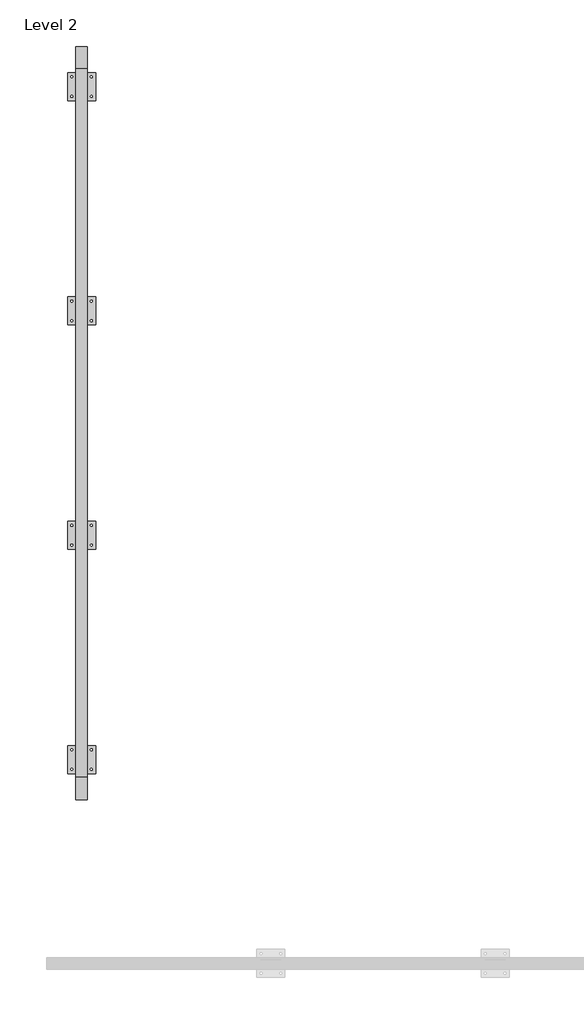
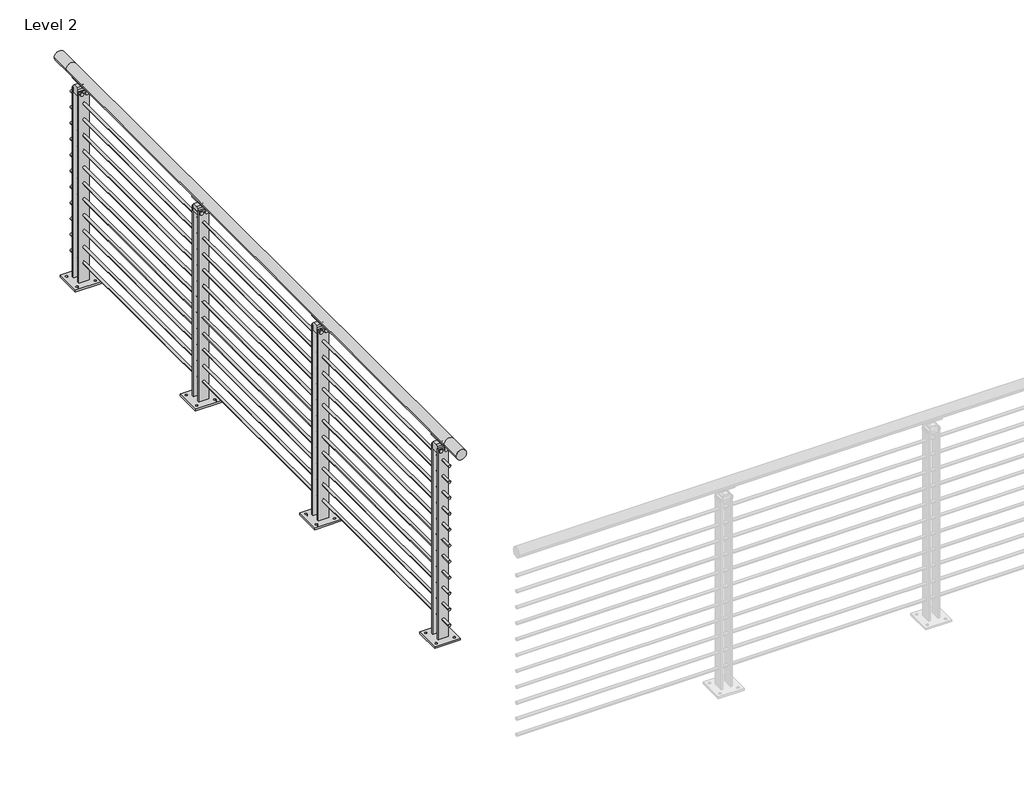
# One storey, part 9 of 31: 1 railing.
"""IFC4 building model written with IfcOpenShell, lengths in millimetres."""

from ifc_helpers import new_model, si_unit, point, frame, frame_2d, origin, place, context, project, spatial, polyline, circle_curve, trimmed, segment, composite_curve, outline, extrude, element, save
from ifc_brep_helpers import plane_surface, cylinder_surface, revolved_surface, advanced_brep

model = new_model("IFC4")

# Units and contexts
model_context = context("Model", 3, world=origin())
ifc_project = project(units=[si_unit("LENGTHUNIT", "METRE", prefix="MILLI")], contexts=[model_context])

# Site, building, storey
site = spatial("IfcSite", under=ifc_project)
building = spatial("IfcBuilding", under=site)
storey = spatial("IfcBuildingStorey", under=building, Name="Level 2", Elevation=3048.0)

# Railing
placement = place(None, origin())
element("IfcRailing", 1, ObjectType="VIVA-BLADE-Multiline-Floor Mount-Straight", at=placement, inside=storey, context=model_context, shape_type="SolidModel", body=[
    advanced_brep(
    [(15627.1572927, -69193.3040223, 4102.1), (15576.3572927, -69193.3040223, 4102.1), (15627.1572927, -69091.7040223, 4102.1), (15576.3572927, -69091.7040223, 4102.1), (15627.1572927, -65884.2426165, 4102.1), (15576.3572927, -65884.2426165, 4102.1), (15627.1572927, -65782.6426165, 4102.1), (15576.3572927, -65782.6426165, 4102.1)],
    [
        (0, 1, circle_curve(frame((15601.7572927, -69193.3040223, 4102.1), z_axis=(0.0, -1.0, 0.0), x_axis=(-1.0, 0.0, 0.0)), 25.4)),
        (1, 0, circle_curve(frame((15601.7572927, -69193.3040223, 4102.1), z_axis=(0.0, -1.0, 0.0), x_axis=(-1.0, 0.0, 0.0)), 25.4)),
        (0, 2),
        (2, 3, circle_curve(frame((15601.7572927, -69091.7040223, 4102.1), z_axis=(0.0, -1.0, 0.0), x_axis=(-1.0, 0.0, 0.0)), 25.4)),
        (3, 1),
        (3, 2, circle_curve(frame((15601.7572927, -69091.7040223, 4102.1), z_axis=(0.0, -1.0, 0.0), x_axis=(-1.0, 0.0, 0.0)), 25.4)),
        (2, 4),
        (4, 5, circle_curve(frame((15601.7572927, -65884.2426165, 4102.1), z_axis=(0.0, -1.0, 0.0), x_axis=(-1.0, 0.0, 0.0)), 25.4)),
        (5, 3),
        (5, 4, circle_curve(frame((15601.7572927, -65884.2426165, 4102.1), z_axis=(0.0, -1.0, 0.0), x_axis=(-1.0, 0.0, 0.0)), 25.4)),
        (6, 7, circle_curve(frame((15601.7572927, -65782.6426165, 4102.1), z_axis=(0.0, 1.0, 0.0), x_axis=(-1.0, 0.0, 0.0)), 25.4)),
        (7, 6, circle_curve(frame((15601.7572927, -65782.6426165, 4102.1), z_axis=(0.0, 1.0, 0.0), x_axis=(-1.0, 0.0, 0.0)), 25.4)),
        (4, 6),
        (7, 5),
    ],
    [
        plane_surface(frame((15601.7572927, -69193.3040223, 4127.5), z_axis=(0.0, -1.0, 0.0), x_axis=(0.0, 0.0, 1.0))),
        cylinder_surface(frame((15601.7572927, -69193.3040223, 4102.1), z_axis=(0.0, -1.0, 0.0), x_axis=(-1.0, 0.0, 0.0)), 25.4),
        cylinder_surface(frame((15601.7572927, -69091.7040223, 4102.1), z_axis=(0.0, -1.0, 0.0), x_axis=(-1.0, 0.0, 0.0)), 25.4),
        plane_surface(frame((15601.7572927, -65782.6426165, 4127.5), z_axis=(0.0, 1.0, 0.0), x_axis=(0.0, 0.0, 1.0))),
        cylinder_surface(frame((15601.7572927, -65884.2426165, 4102.1), z_axis=(0.0, -1.0, 0.0), x_axis=(-1.0, 0.0, 0.0)), 25.4),
    ],
    [
        (0, [[1, 2]]),
        (1, [[-1, 3, 4, 5]]),
        (1, [[-2, -5, 6, -3]]),
        (2, [[-4, 7, 8, 9]]),
        (2, [[-6, -9, 10, -7]]),
        (3, [[11, 12]]),
        (4, [[-8, 13, -12, 14]]),
        (4, [[-10, -14, -11, -13]]),
    ],
),
    extrude(outline(composite_curve([segment(trimmed(circle_curve(frame_2d((3981.45, 15601.7572927)), 6.35), [point((3981.45, 15608.1072927))], [point((3981.45, 15595.4072927))], False, "CARTESIAN"), True, "CONTINUOUS"), segment(trimmed(circle_curve(frame_2d((3981.45, 15601.7572927)), 6.35), [point((3981.45, 15595.4072927))], [point((3981.45, 15608.1072927))], False, "CARTESIAN"), True, "CONTINUOUS")], self_intersect=False)), frame((0.0, -69091.7040223, 0.0), z_axis=(0.0, 1.0, 0.0), x_axis=(0.0, 0.0, 1.0)), (0.0, 0.0, 1.0), 3207.4614057),
    extrude(outline(composite_curve([segment(trimmed(circle_curve(frame_2d((3898.9, 15601.7572927)), 6.35), [point((3898.9, 15608.1072927))], [point((3898.9, 15595.4072927))], False, "CARTESIAN"), True, "CONTINUOUS"), segment(trimmed(circle_curve(frame_2d((3898.9, 15601.7572927)), 6.35), [point((3898.9, 15595.4072927))], [point((3898.9, 15608.1072927))], False, "CARTESIAN"), True, "CONTINUOUS")], self_intersect=False)), frame((0.0, -69091.7040223, 0.0), z_axis=(0.0, 1.0, 0.0), x_axis=(0.0, 0.0, 1.0)), (0.0, 0.0, 1.0), 3207.4614057),
    extrude(outline(composite_curve([segment(trimmed(circle_curve(frame_2d((3816.35, 15601.7572927)), 6.35), [point((3816.35, 15608.1072927))], [point((3816.35, 15595.4072927))], False, "CARTESIAN"), True, "CONTINUOUS"), segment(trimmed(circle_curve(frame_2d((3816.35, 15601.7572927)), 6.35), [point((3816.35, 15595.4072927))], [point((3816.35, 15608.1072927))], False, "CARTESIAN"), True, "CONTINUOUS")], self_intersect=False)), frame((0.0, -69091.7040223, 0.0), z_axis=(0.0, 1.0, 0.0), x_axis=(0.0, 0.0, 1.0)), (0.0, 0.0, 1.0), 3207.4614057),
    extrude(outline(composite_curve([segment(trimmed(circle_curve(frame_2d((3733.8, 15601.7572927)), 6.35), [point((3733.8, 15608.1072927))], [point((3733.8, 15595.4072927))], False, "CARTESIAN"), True, "CONTINUOUS"), segment(trimmed(circle_curve(frame_2d((3733.8, 15601.7572927)), 6.35), [point((3733.8, 15595.4072927))], [point((3733.8, 15608.1072927))], False, "CARTESIAN"), True, "CONTINUOUS")], self_intersect=False)), frame((0.0, -69091.7040223, 0.0), z_axis=(0.0, 1.0, 0.0), x_axis=(0.0, 0.0, 1.0)), (0.0, 0.0, 1.0), 3207.4614057),
    extrude(outline(composite_curve([segment(trimmed(circle_curve(frame_2d((3651.25, 15601.7572927)), 6.35), [point((3651.25, 15608.1072927))], [point((3651.25, 15595.4072927))], False, "CARTESIAN"), True, "CONTINUOUS"), segment(trimmed(circle_curve(frame_2d((3651.25, 15601.7572927)), 6.35), [point((3651.25, 15595.4072927))], [point((3651.25, 15608.1072927))], False, "CARTESIAN"), True, "CONTINUOUS")], self_intersect=False)), frame((0.0, -69091.7040223, 0.0), z_axis=(0.0, 1.0, 0.0), x_axis=(0.0, 0.0, 1.0)), (0.0, 0.0, 1.0), 3207.4614057),
    extrude(outline(composite_curve([segment(trimmed(circle_curve(frame_2d((3568.7, 15601.7572927)), 6.35), [point((3568.7, 15608.1072927))], [point((3568.7, 15595.4072927))], False, "CARTESIAN"), True, "CONTINUOUS"), segment(trimmed(circle_curve(frame_2d((3568.7, 15601.7572927)), 6.35), [point((3568.7, 15595.4072927))], [point((3568.7, 15608.1072927))], False, "CARTESIAN"), True, "CONTINUOUS")], self_intersect=False)), frame((0.0, -69091.7040223, 0.0), z_axis=(0.0, 1.0, 0.0), x_axis=(0.0, 0.0, 1.0)), (0.0, 0.0, 1.0), 3207.4614057),
    extrude(outline(composite_curve([segment(trimmed(circle_curve(frame_2d((3486.15, 15601.7572927)), 6.35), [point((3486.15, 15608.1072927))], [point((3486.15, 15595.4072927))], False, "CARTESIAN"), True, "CONTINUOUS"), segment(trimmed(circle_curve(frame_2d((3486.15, 15601.7572927)), 6.35), [point((3486.15, 15595.4072927))], [point((3486.15, 15608.1072927))], False, "CARTESIAN"), True, "CONTINUOUS")], self_intersect=False)), frame((0.0, -69091.7040223, 0.0), z_axis=(0.0, 1.0, 0.0), x_axis=(0.0, 0.0, 1.0)), (0.0, 0.0, 1.0), 3207.4614057),
    extrude(outline(composite_curve([segment(trimmed(circle_curve(frame_2d((3403.6, 15601.7572927)), 6.35), [point((3403.6, 15608.1072927))], [point((3403.6, 15595.4072927))], False, "CARTESIAN"), True, "CONTINUOUS"), segment(trimmed(circle_curve(frame_2d((3403.6, 15601.7572927)), 6.35), [point((3403.6, 15595.4072927))], [point((3403.6, 15608.1072927))], False, "CARTESIAN"), True, "CONTINUOUS")], self_intersect=False)), frame((0.0, -69091.7040223, 0.0), z_axis=(0.0, 1.0, 0.0), x_axis=(0.0, 0.0, 1.0)), (0.0, 0.0, 1.0), 3207.4614057),
    extrude(outline(composite_curve([segment(trimmed(circle_curve(frame_2d((3321.05, 15601.7572927)), 6.35), [point((3321.05, 15608.1072927))], [point((3321.05, 15595.4072927))], False, "CARTESIAN"), True, "CONTINUOUS"), segment(trimmed(circle_curve(frame_2d((3321.05, 15601.7572927)), 6.35), [point((3321.05, 15595.4072927))], [point((3321.05, 15608.1072927))], False, "CARTESIAN"), True, "CONTINUOUS")], self_intersect=False)), frame((0.0, -69091.7040223, 0.0), z_axis=(0.0, 1.0, 0.0), x_axis=(0.0, 0.0, 1.0)), (0.0, 0.0, 1.0), 3207.4614057),
    extrude(outline(composite_curve([segment(trimmed(circle_curve(frame_2d((3238.5, 15601.7572927)), 6.35), [point((3238.5, 15608.1072927))], [point((3238.5, 15595.4072927))], False, "CARTESIAN"), True, "CONTINUOUS"), segment(trimmed(circle_curve(frame_2d((3238.5, 15601.7572927)), 6.35), [point((3238.5, 15595.4072927))], [point((3238.5, 15608.1072927))], False, "CARTESIAN"), True, "CONTINUOUS")], self_intersect=False)), frame((0.0, -69091.7040223, 0.0), z_axis=(0.0, 1.0, 0.0), x_axis=(0.0, 0.0, 1.0)), (0.0, 0.0, 1.0), 3207.4614057),
    extrude(outline(composite_curve([segment(trimmed(circle_curve(frame_2d((3155.95, 15601.7572927)), 6.35), [point((3155.95, 15608.1072927))], [point((3155.95, 15595.4072927))], False, "CARTESIAN"), True, "CONTINUOUS"), segment(trimmed(circle_curve(frame_2d((3155.95, 15601.7572927)), 6.35), [point((3155.95, 15595.4072927))], [point((3155.95, 15608.1072927))], False, "CARTESIAN"), True, "CONTINUOUS")], self_intersect=False)), frame((0.0, -69091.7040223, 0.0), z_axis=(0.0, 1.0, 0.0), x_axis=(0.0, 0.0, 1.0)), (0.0, 0.0, 1.0), 3207.4614057),
    advanced_brep(
    [(15614.5174163, -65918.7359194, 4080.0967655), (15618.3533137, -65918.7359194, 4075.707533), (15586.8364215, -65918.7359194, 4075.1267745), (15589.6453518, -65918.7359194, 4079.9535285), (15614.5174163, -66009.2107194, 4080.0967655), (15589.5583797, -66009.2107194, 4080.0018447), (15586.7226281, -66009.2107194, 4075.1893964), (15618.3533137, -66009.2107194, 4075.707533)],
    [
        (0, 1, circle_curve(frame((15616.064974, -65918.7359194, 4077.5784521), z_axis=(0.0, 1.0, 0.0), x_axis=(1.0, 0.0, 0.0)), 2.9558141)),
        (1, 2, circle_curve(frame((15602.0870765, -65918.7359194, 4102.9742164), z_axis=(0.0, 1.0, 0.0), x_axis=(1.0, 0.0, 0.0)), 31.75)),
        (2, 3, circle_curve(frame((15588.3137265, -65918.7359194, 4077.4993599), z_axis=(0.0, 1.0, 0.0), x_axis=(1.0, 0.0, 0.0)), 2.7949225)),
        (3, 0, circle_curve(frame((15601.9536134, -65918.7359194, 4102.2115898), z_axis=(0.0, -1.0, 0.0), x_axis=(1.0, 0.0, 0.0)), 25.4345159)),
        (4, 5, circle_curve(frame((15601.9536134, -66009.2107194, 4102.2115898), z_axis=(0.0, 1.0, 0.0), x_axis=(1.0, 0.0, 0.0)), 25.4345159)),
        (5, 6, circle_curve(frame((15588.3137265, -66009.2107194, 4077.4993599), z_axis=(0.0, -1.0, 0.0), x_axis=(1.0, 0.0, 0.0)), 2.7949225)),
        (6, 7, circle_curve(frame((15602.0870765, -66009.2107194, 4102.9742164), z_axis=(0.0, -1.0, 0.0), x_axis=(1.0, 0.0, 0.0)), 31.75)),
        (7, 4, circle_curve(frame((15616.064974, -66009.2107194, 4077.5784521), z_axis=(0.0, -1.0, 0.0), x_axis=(1.0, 0.0, 0.0)), 2.9558141)),
        (3, 5),
        (4, 0),
        (2, 6),
        (1, 7),
    ],
    [
        plane_surface(frame((15627.3881293, -65918.7359194, 4102.2115898), z_axis=(0.0, 1.0, 0.0), x_axis=(0.0, 0.0, -1.0))),
        plane_surface(frame((15627.3881293, -66009.2107194, 4102.2115898), z_axis=(0.0, -1.0, 0.0), x_axis=(0.0, 0.0, 1.0))),
        revolved_surface(polyline([(15627.388129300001, -66009.2107194, 4102.2115898), (15627.388129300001, -65918.7359194, 4102.2115898)]), (15601.9536134, -66009.2107194, 4102.2115898), (0.0, -1.0, 0.0)),
        cylinder_surface(frame((15588.3137265, -66009.2107194, 4077.4993599), z_axis=(0.0, 1.0, 0.0), x_axis=(1.0, 0.0, 0.0)), 2.7949225),
        cylinder_surface(frame((15602.0870765, -66009.2107194, 4102.9742164), z_axis=(0.0, 1.0, 0.0), x_axis=(1.0, 0.0, 0.0)), 31.75),
        cylinder_surface(frame((15616.064974, -66009.2107194, 4077.5784521), z_axis=(0.0, 1.0, 0.0), x_axis=(1.0, 0.0, 0.0)), 2.9558141),
    ],
    [
        (0, [[1, 2, 3, 4]]),
        (1, [[5, 6, 7, 8]]),
        (2, [[9, -5, 10, -4]]),
        (3, [[11, -6, -9, -3]]),
        (4, [[12, -7, -11, -2]]),
        (5, [[-10, -8, -12, -1]]),
    ],
),
    extrude(outline(composite_curve([segment(polyline([(-65951.2733194, 4062.4125), (-65976.6733194, 4062.4125)]), True, "CONTINUOUS"), segment(trimmed(circle_curve(frame_2d((-65991.0412343, 4062.4125)), 14.3679149), [point((-65976.6733194, 4062.4125))], [point((-65991.0412343, 4076.7804149))], True, "CARTESIAN"), True, "CONTINUOUS"), segment(polyline([(-65991.0412343, 4076.7804149), (-65936.9054045, 4076.7804149)]), True, "CONTINUOUS"), segment(trimmed(circle_curve(frame_2d((-65936.9054045, 4062.4125)), 14.3679149), [point((-65936.9054045, 4076.7804149))], [point((-65951.2733194, 4062.4125))], True, "CARTESIAN"), True, "CONTINUOUS")], self_intersect=False)), frame((15599.2172927, 0.0, 0.0), z_axis=(1.0, 0.0, 0.0), x_axis=(0.0, 1.0, 0.0)), (0.0, 0.0, 1.0), 5.08),
    extrude(outline(polyline([(15538.2584868, -65900.4852563), (15665.2560986, -65900.4852563), (15665.2560986, -66027.4852563), (15538.2584868, -66027.4852563), (15538.2584868, -65900.4852563)]), holes=[composite_curve([segment(trimmed(circle_curve(frame_2d((15557.3084868, -66008.4352563)), 4.7625), [point((15552.5459868, -66008.4352563))], [point((15562.0709868, -66008.4352563))], True, "CARTESIAN"), True, "CONTINUOUS"), segment(trimmed(circle_curve(frame_2d((15557.3084868, -66008.4352563)), 4.7625), [point((15562.0709868, -66008.4352563))], [point((15552.5459868, -66008.4352563))], True, "CARTESIAN"), True, "CONTINUOUS")], self_intersect=False), composite_curve([segment(trimmed(circle_curve(frame_2d((15646.2060986, -66008.4352563)), 4.7625), [point((15641.4435986, -66008.4352563))], [point((15650.9685986, -66008.4352563))], True, "CARTESIAN"), True, "CONTINUOUS"), segment(trimmed(circle_curve(frame_2d((15646.2060986, -66008.4352563)), 4.7625), [point((15650.9685986, -66008.4352563))], [point((15641.4435986, -66008.4352563))], True, "CARTESIAN"), True, "CONTINUOUS")], self_intersect=False), composite_curve([segment(trimmed(circle_curve(frame_2d((15646.2060986, -65919.5352563)), 4.7625), [point((15641.4435986, -65919.5352563))], [point((15650.9685986, -65919.5352563))], True, "CARTESIAN"), True, "CONTINUOUS"), segment(trimmed(circle_curve(frame_2d((15646.2060986, -65919.5352563)), 4.7625), [point((15650.9685986, -65919.5352563))], [point((15641.4435986, -65919.5352563))], True, "CARTESIAN"), True, "CONTINUOUS")], self_intersect=False), composite_curve([segment(trimmed(circle_curve(frame_2d((15557.3084868, -65919.5352563)), 4.7625), [point((15552.5459868, -65919.5352563))], [point((15562.0709868, -65919.5352563))], True, "CARTESIAN"), True, "CONTINUOUS"), segment(trimmed(circle_curve(frame_2d((15557.3084868, -65919.5352563)), 4.7625), [point((15562.0709868, -65919.5352563))], [point((15552.5459868, -65919.5352563))], True, "CARTESIAN"), True, "CONTINUOUS")], self_intersect=False)]), frame((0.0, 0.0, 3048.0), z_axis=(0.0, 0.0, 1.0), x_axis=(1.0, 0.0, 0.0)), (0.0, 0.0, 1.0), 9.525),
    extrude(outline(polyline([(15627.1570894, -65991.0481551), (15576.3547647, -65991.0481551), (15576.3547647, -65983.0233194), (15627.1570894, -65983.0233194), (15627.1570894, -65991.0481551)])), frame((0.0, 0.0, 3048.0), z_axis=(0.0, 0.0, 1.0), x_axis=(1.0, 0.0, 0.0)), (0.0, 0.0, 1.0), 996.95),
    extrude(outline(composite_curve([segment(trimmed(circle_curve(frame_2d((4034.0416929, 15589.0548158)), 8.89), [point((4034.0416929, 15580.1648158))], [point((4034.0416929, 15597.9448158))], False, "CARTESIAN"), True, "CONTINUOUS"), segment(trimmed(circle_curve(frame_2d((4034.0416929, 15589.0548158)), 8.89), [point((4034.0416929, 15597.9448158))], [point((4034.0416929, 15580.1648158))], False, "CARTESIAN"), True, "CONTINUOUS")], self_intersect=False)), frame((0.0, -65995.7233194, 0.0), z_axis=(0.0, 1.0, 0.0), x_axis=(0.0, 0.0, 1.0)), (0.0, 0.0, 1.0), 63.4880631),
    extrude(outline(composite_curve([segment(trimmed(circle_curve(frame_2d((4034.0416929, 15614.4547137)), 8.89), [point((4034.0416929, 15605.5647137))], [point((4034.0416929, 15623.3447137))], False, "CARTESIAN"), True, "CONTINUOUS"), segment(trimmed(circle_curve(frame_2d((4034.0416929, 15614.4547137)), 8.89), [point((4034.0416929, 15623.3447137))], [point((4034.0416929, 15605.5647137))], False, "CARTESIAN"), True, "CONTINUOUS")], self_intersect=False)), frame((0.0, -65995.7233194, 0.0), z_axis=(0.0, 1.0, 0.0), x_axis=(0.0, 0.0, 1.0)), (0.0, 0.0, 1.0), 63.4880631),
    extrude(outline(polyline([(-65983.0233194, 4022.7123), (-65983.0233194, 4056.0625), (-65976.6733194, 4062.4125), (-65951.2733194, 4062.4125), (-65944.9233194, 4056.0625), (-65944.9233194, 4022.7123), (-65983.0233194, 4022.7123)])), frame((15576.3547647, 0.0, 0.0), z_axis=(1.0, 0.0, 0.0), x_axis=(0.0, 1.0, 0.0)), (0.0, 0.0, 1.0), 50.8025279),
    extrude(outline(polyline([(15627.1570894, -65944.9233574), (15576.3547647, -65944.9233574), (15576.3547647, -65936.9223574), (15627.1570894, -65936.9223574), (15627.1570894, -65944.9233574)])), frame((0.0, 0.0, 3048.0), z_axis=(0.0, 0.0, 1.0), x_axis=(1.0, 0.0, 0.0)), (0.0, 0.0, 1.0), 996.95),
    advanced_brep(
    [(15614.5174163, -66934.7359194, 4080.0967655), (15618.3533137, -66934.7359194, 4075.707533), (15586.8364215, -66934.7359194, 4075.1267745), (15589.6453518, -66934.7359194, 4079.9535285), (15614.5174163, -67025.2107194, 4080.0967655), (15589.5583797, -67025.2107194, 4080.0018447), (15586.7226281, -67025.2107194, 4075.1893964), (15618.3533137, -67025.2107194, 4075.707533)],
    [
        (0, 1, circle_curve(frame((15616.064974, -66934.7359194, 4077.5784521), z_axis=(0.0, 1.0, 0.0), x_axis=(1.0, 0.0, 0.0)), 2.9558141)),
        (1, 2, circle_curve(frame((15602.0870765, -66934.7359194, 4102.9742164), z_axis=(0.0, 1.0, 0.0), x_axis=(1.0, 0.0, 0.0)), 31.75)),
        (2, 3, circle_curve(frame((15588.3137265, -66934.7359194, 4077.4993599), z_axis=(0.0, 1.0, 0.0), x_axis=(1.0, 0.0, 0.0)), 2.7949225)),
        (3, 0, circle_curve(frame((15601.9536134, -66934.7359194, 4102.2115898), z_axis=(0.0, -1.0, 0.0), x_axis=(1.0, 0.0, 0.0)), 25.4345159)),
        (4, 5, circle_curve(frame((15601.9536134, -67025.2107194, 4102.2115898), z_axis=(0.0, 1.0, 0.0), x_axis=(1.0, 0.0, 0.0)), 25.4345159)),
        (5, 6, circle_curve(frame((15588.3137265, -67025.2107194, 4077.4993599), z_axis=(0.0, -1.0, 0.0), x_axis=(1.0, 0.0, 0.0)), 2.7949225)),
        (6, 7, circle_curve(frame((15602.0870765, -67025.2107194, 4102.9742164), z_axis=(0.0, -1.0, 0.0), x_axis=(1.0, 0.0, 0.0)), 31.75)),
        (7, 4, circle_curve(frame((15616.064974, -67025.2107194, 4077.5784521), z_axis=(0.0, -1.0, 0.0), x_axis=(1.0, 0.0, 0.0)), 2.9558141)),
        (3, 5),
        (4, 0),
        (2, 6),
        (1, 7),
    ],
    [
        plane_surface(frame((15627.3881293, -66934.7359194, 4102.2115898), z_axis=(0.0, 1.0, 0.0), x_axis=(0.0, 0.0, -1.0))),
        plane_surface(frame((15627.3881293, -67025.2107194, 4102.2115898), z_axis=(0.0, -1.0, 0.0), x_axis=(0.0, 0.0, 1.0))),
        revolved_surface(polyline([(15627.388129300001, -67025.2107194, 4102.2115898), (15627.388129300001, -66934.7359194, 4102.2115898)]), (15601.9536134, -67025.2107194, 4102.2115898), (0.0, -1.0, 0.0)),
        cylinder_surface(frame((15588.3137265, -67025.2107194, 4077.4993599), z_axis=(0.0, 1.0, 0.0), x_axis=(1.0, 0.0, 0.0)), 2.7949225),
        cylinder_surface(frame((15602.0870765, -67025.2107194, 4102.9742164), z_axis=(0.0, 1.0, 0.0), x_axis=(1.0, 0.0, 0.0)), 31.75),
        cylinder_surface(frame((15616.064974, -67025.2107194, 4077.5784521), z_axis=(0.0, 1.0, 0.0), x_axis=(1.0, 0.0, 0.0)), 2.9558141),
    ],
    [
        (0, [[1, 2, 3, 4]]),
        (1, [[5, 6, 7, 8]]),
        (2, [[9, -5, 10, -4]]),
        (3, [[11, -6, -9, -3]]),
        (4, [[12, -7, -11, -2]]),
        (5, [[-10, -8, -12, -1]]),
    ],
),
    extrude(outline(composite_curve([segment(polyline([(-66967.2733194, 4062.4125), (-66992.6733194, 4062.4125)]), True, "CONTINUOUS"), segment(trimmed(circle_curve(frame_2d((-67007.0412343, 4062.4125)), 14.3679149), [point((-66992.6733194, 4062.4125))], [point((-67007.0412343, 4076.7804149))], True, "CARTESIAN"), True, "CONTINUOUS"), segment(polyline([(-67007.0412343, 4076.7804149), (-66952.9054045, 4076.7804149)]), True, "CONTINUOUS"), segment(trimmed(circle_curve(frame_2d((-66952.9054045, 4062.4125)), 14.3679149), [point((-66952.9054045, 4076.7804149))], [point((-66967.2733194, 4062.4125))], True, "CARTESIAN"), True, "CONTINUOUS")], self_intersect=False)), frame((15599.2172927, 0.0, 0.0), z_axis=(1.0, 0.0, 0.0), x_axis=(0.0, 1.0, 0.0)), (0.0, 0.0, 1.0), 5.08),
    extrude(outline(polyline([(15538.2584868, -66916.4852563), (15665.2560986, -66916.4852563), (15665.2560986, -67043.4852563), (15538.2584868, -67043.4852563), (15538.2584868, -66916.4852563)]), holes=[composite_curve([segment(trimmed(circle_curve(frame_2d((15557.3084868, -67024.4352563)), 4.7625), [point((15552.5459868, -67024.4352563))], [point((15562.0709868, -67024.4352563))], True, "CARTESIAN"), True, "CONTINUOUS"), segment(trimmed(circle_curve(frame_2d((15557.3084868, -67024.4352563)), 4.7625), [point((15562.0709868, -67024.4352563))], [point((15552.5459868, -67024.4352563))], True, "CARTESIAN"), True, "CONTINUOUS")], self_intersect=False), composite_curve([segment(trimmed(circle_curve(frame_2d((15646.2060986, -67024.4352563)), 4.7625), [point((15641.4435986, -67024.4352563))], [point((15650.9685986, -67024.4352563))], True, "CARTESIAN"), True, "CONTINUOUS"), segment(trimmed(circle_curve(frame_2d((15646.2060986, -67024.4352563)), 4.7625), [point((15650.9685986, -67024.4352563))], [point((15641.4435986, -67024.4352563))], True, "CARTESIAN"), True, "CONTINUOUS")], self_intersect=False), composite_curve([segment(trimmed(circle_curve(frame_2d((15646.2060986, -66935.5352563)), 4.7625), [point((15641.4435986, -66935.5352563))], [point((15650.9685986, -66935.5352563))], True, "CARTESIAN"), True, "CONTINUOUS"), segment(trimmed(circle_curve(frame_2d((15646.2060986, -66935.5352563)), 4.7625), [point((15650.9685986, -66935.5352563))], [point((15641.4435986, -66935.5352563))], True, "CARTESIAN"), True, "CONTINUOUS")], self_intersect=False), composite_curve([segment(trimmed(circle_curve(frame_2d((15557.3084868, -66935.5352563)), 4.7625), [point((15552.5459868, -66935.5352563))], [point((15562.0709868, -66935.5352563))], True, "CARTESIAN"), True, "CONTINUOUS"), segment(trimmed(circle_curve(frame_2d((15557.3084868, -66935.5352563)), 4.7625), [point((15562.0709868, -66935.5352563))], [point((15552.5459868, -66935.5352563))], True, "CARTESIAN"), True, "CONTINUOUS")], self_intersect=False)]), frame((0.0, 0.0, 3048.0), z_axis=(0.0, 0.0, 1.0), x_axis=(1.0, 0.0, 0.0)), (0.0, 0.0, 1.0), 9.525),
    extrude(outline(polyline([(15627.1570894, -67007.0481551), (15576.3547647, -67007.0481551), (15576.3547647, -66999.0233194), (15627.1570894, -66999.0233194), (15627.1570894, -67007.0481551)])), frame((0.0, 0.0, 3048.0), z_axis=(0.0, 0.0, 1.0), x_axis=(1.0, 0.0, 0.0)), (0.0, 0.0, 1.0), 996.95),
    extrude(outline(composite_curve([segment(trimmed(circle_curve(frame_2d((4034.0416929, 15589.0548158)), 8.89), [point((4034.0416929, 15580.1648158))], [point((4034.0416929, 15597.9448158))], False, "CARTESIAN"), True, "CONTINUOUS"), segment(trimmed(circle_curve(frame_2d((4034.0416929, 15589.0548158)), 8.89), [point((4034.0416929, 15597.9448158))], [point((4034.0416929, 15580.1648158))], False, "CARTESIAN"), True, "CONTINUOUS")], self_intersect=False)), frame((0.0, -67011.7233194, 0.0), z_axis=(0.0, 1.0, 0.0), x_axis=(0.0, 0.0, 1.0)), (0.0, 0.0, 1.0), 63.4880631),
    extrude(outline(composite_curve([segment(trimmed(circle_curve(frame_2d((4034.0416929, 15614.4547137)), 8.89), [point((4034.0416929, 15605.5647137))], [point((4034.0416929, 15623.3447137))], False, "CARTESIAN"), True, "CONTINUOUS"), segment(trimmed(circle_curve(frame_2d((4034.0416929, 15614.4547137)), 8.89), [point((4034.0416929, 15623.3447137))], [point((4034.0416929, 15605.5647137))], False, "CARTESIAN"), True, "CONTINUOUS")], self_intersect=False)), frame((0.0, -67011.7233194, 0.0), z_axis=(0.0, 1.0, 0.0), x_axis=(0.0, 0.0, 1.0)), (0.0, 0.0, 1.0), 63.4880631),
    extrude(outline(polyline([(-66999.0233194, 4022.7123), (-66999.0233194, 4056.0625), (-66992.6733194, 4062.4125), (-66967.2733194, 4062.4125), (-66960.9233194, 4056.0625), (-66960.9233194, 4022.7123), (-66999.0233194, 4022.7123)])), frame((15576.3547647, 0.0, 0.0), z_axis=(1.0, 0.0, 0.0), x_axis=(0.0, 1.0, 0.0)), (0.0, 0.0, 1.0), 50.8025279),
    extrude(outline(polyline([(15627.1570894, -66960.9233574), (15576.3547647, -66960.9233574), (15576.3547647, -66952.9223574), (15627.1570894, -66952.9223574), (15627.1570894, -66960.9233574)])), frame((0.0, 0.0, 3048.0), z_axis=(0.0, 0.0, 1.0), x_axis=(1.0, 0.0, 0.0)), (0.0, 0.0, 1.0), 996.95),
    advanced_brep(
    [(15614.5174163, -67950.7359194, 4080.0967655), (15618.3533137, -67950.7359194, 4075.707533), (15586.8364215, -67950.7359194, 4075.1267745), (15589.6453518, -67950.7359194, 4079.9535285), (15614.5174163, -68041.2107194, 4080.0967655), (15589.5583797, -68041.2107194, 4080.0018447), (15586.7226281, -68041.2107194, 4075.1893964), (15618.3533137, -68041.2107194, 4075.707533)],
    [
        (0, 1, circle_curve(frame((15616.064974, -67950.7359194, 4077.5784521), z_axis=(0.0, 1.0, 0.0), x_axis=(1.0, 0.0, 0.0)), 2.9558141)),
        (1, 2, circle_curve(frame((15602.0870765, -67950.7359194, 4102.9742164), z_axis=(0.0, 1.0, 0.0), x_axis=(1.0, 0.0, 0.0)), 31.75)),
        (2, 3, circle_curve(frame((15588.3137265, -67950.7359194, 4077.4993599), z_axis=(0.0, 1.0, 0.0), x_axis=(1.0, 0.0, 0.0)), 2.7949225)),
        (3, 0, circle_curve(frame((15601.9536134, -67950.7359194, 4102.2115898), z_axis=(0.0, -1.0, 0.0), x_axis=(1.0, 0.0, 0.0)), 25.4345159)),
        (4, 5, circle_curve(frame((15601.9536134, -68041.2107194, 4102.2115898), z_axis=(0.0, 1.0, 0.0), x_axis=(1.0, 0.0, 0.0)), 25.4345159)),
        (5, 6, circle_curve(frame((15588.3137265, -68041.2107194, 4077.4993599), z_axis=(0.0, -1.0, 0.0), x_axis=(1.0, 0.0, 0.0)), 2.7949225)),
        (6, 7, circle_curve(frame((15602.0870765, -68041.2107194, 4102.9742164), z_axis=(0.0, -1.0, 0.0), x_axis=(1.0, 0.0, 0.0)), 31.75)),
        (7, 4, circle_curve(frame((15616.064974, -68041.2107194, 4077.5784521), z_axis=(0.0, -1.0, 0.0), x_axis=(1.0, 0.0, 0.0)), 2.9558141)),
        (3, 5),
        (4, 0),
        (2, 6),
        (1, 7),
    ],
    [
        plane_surface(frame((15627.3881293, -67950.7359194, 4102.2115898), z_axis=(0.0, 1.0, 0.0), x_axis=(0.0, 0.0, -1.0))),
        plane_surface(frame((15627.3881293, -68041.2107194, 4102.2115898), z_axis=(0.0, -1.0, 0.0), x_axis=(0.0, 0.0, 1.0))),
        revolved_surface(polyline([(15627.388129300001, -68041.2107194, 4102.2115898), (15627.388129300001, -67950.7359194, 4102.2115898)]), (15601.9536134, -68041.2107194, 4102.2115898), (0.0, -1.0, 0.0)),
        cylinder_surface(frame((15588.3137265, -68041.2107194, 4077.4993599), z_axis=(0.0, 1.0, 0.0), x_axis=(1.0, 0.0, 0.0)), 2.7949225),
        cylinder_surface(frame((15602.0870765, -68041.2107194, 4102.9742164), z_axis=(0.0, 1.0, 0.0), x_axis=(1.0, 0.0, 0.0)), 31.75),
        cylinder_surface(frame((15616.064974, -68041.2107194, 4077.5784521), z_axis=(0.0, 1.0, 0.0), x_axis=(1.0, 0.0, 0.0)), 2.9558141),
    ],
    [
        (0, [[1, 2, 3, 4]]),
        (1, [[5, 6, 7, 8]]),
        (2, [[9, -5, 10, -4]]),
        (3, [[11, -6, -9, -3]]),
        (4, [[12, -7, -11, -2]]),
        (5, [[-10, -8, -12, -1]]),
    ],
),
    extrude(outline(composite_curve([segment(polyline([(-67983.2733194, 4062.4125), (-68008.6733194, 4062.4125)]), True, "CONTINUOUS"), segment(trimmed(circle_curve(frame_2d((-68023.0412343, 4062.4125)), 14.3679149), [point((-68008.6733194, 4062.4125))], [point((-68023.0412343, 4076.7804149))], True, "CARTESIAN"), True, "CONTINUOUS"), segment(polyline([(-68023.0412343, 4076.7804149), (-67968.9054045, 4076.7804149)]), True, "CONTINUOUS"), segment(trimmed(circle_curve(frame_2d((-67968.9054045, 4062.4125)), 14.3679149), [point((-67968.9054045, 4076.7804149))], [point((-67983.2733194, 4062.4125))], True, "CARTESIAN"), True, "CONTINUOUS")], self_intersect=False)), frame((15599.2172927, 0.0, 0.0), z_axis=(1.0, 0.0, 0.0), x_axis=(0.0, 1.0, 0.0)), (0.0, 0.0, 1.0), 5.08),
    extrude(outline(polyline([(15538.2584868, -67932.4852563), (15665.2560986, -67932.4852563), (15665.2560986, -68059.4852563), (15538.2584868, -68059.4852563), (15538.2584868, -67932.4852563)]), holes=[composite_curve([segment(trimmed(circle_curve(frame_2d((15557.3084868, -68040.4352563)), 4.7625), [point((15552.5459868, -68040.4352563))], [point((15562.0709868, -68040.4352563))], True, "CARTESIAN"), True, "CONTINUOUS"), segment(trimmed(circle_curve(frame_2d((15557.3084868, -68040.4352563)), 4.7625), [point((15562.0709868, -68040.4352563))], [point((15552.5459868, -68040.4352563))], True, "CARTESIAN"), True, "CONTINUOUS")], self_intersect=False), composite_curve([segment(trimmed(circle_curve(frame_2d((15646.2060986, -68040.4352563)), 4.7625), [point((15641.4435986, -68040.4352563))], [point((15650.9685986, -68040.4352563))], True, "CARTESIAN"), True, "CONTINUOUS"), segment(trimmed(circle_curve(frame_2d((15646.2060986, -68040.4352563)), 4.7625), [point((15650.9685986, -68040.4352563))], [point((15641.4435986, -68040.4352563))], True, "CARTESIAN"), True, "CONTINUOUS")], self_intersect=False), composite_curve([segment(trimmed(circle_curve(frame_2d((15646.2060986, -67951.5352563)), 4.7625), [point((15641.4435986, -67951.5352563))], [point((15650.9685986, -67951.5352563))], True, "CARTESIAN"), True, "CONTINUOUS"), segment(trimmed(circle_curve(frame_2d((15646.2060986, -67951.5352563)), 4.7625), [point((15650.9685986, -67951.5352563))], [point((15641.4435986, -67951.5352563))], True, "CARTESIAN"), True, "CONTINUOUS")], self_intersect=False), composite_curve([segment(trimmed(circle_curve(frame_2d((15557.3084868, -67951.5352563)), 4.7625), [point((15552.5459868, -67951.5352563))], [point((15562.0709868, -67951.5352563))], True, "CARTESIAN"), True, "CONTINUOUS"), segment(trimmed(circle_curve(frame_2d((15557.3084868, -67951.5352563)), 4.7625), [point((15562.0709868, -67951.5352563))], [point((15552.5459868, -67951.5352563))], True, "CARTESIAN"), True, "CONTINUOUS")], self_intersect=False)]), frame((0.0, 0.0, 3048.0), z_axis=(0.0, 0.0, 1.0), x_axis=(1.0, 0.0, 0.0)), (0.0, 0.0, 1.0), 9.525),
    extrude(outline(polyline([(15627.1570894, -68023.0481551), (15576.3547647, -68023.0481551), (15576.3547647, -68015.0233194), (15627.1570894, -68015.0233194), (15627.1570894, -68023.0481551)])), frame((0.0, 0.0, 3048.0), z_axis=(0.0, 0.0, 1.0), x_axis=(1.0, 0.0, 0.0)), (0.0, 0.0, 1.0), 996.95),
    extrude(outline(composite_curve([segment(trimmed(circle_curve(frame_2d((4034.0416929, 15589.0548158)), 8.89), [point((4034.0416929, 15580.1648158))], [point((4034.0416929, 15597.9448158))], False, "CARTESIAN"), True, "CONTINUOUS"), segment(trimmed(circle_curve(frame_2d((4034.0416929, 15589.0548158)), 8.89), [point((4034.0416929, 15597.9448158))], [point((4034.0416929, 15580.1648158))], False, "CARTESIAN"), True, "CONTINUOUS")], self_intersect=False)), frame((0.0, -68027.7233194, 0.0), z_axis=(0.0, 1.0, 0.0), x_axis=(0.0, 0.0, 1.0)), (0.0, 0.0, 1.0), 63.4880631),
    extrude(outline(composite_curve([segment(trimmed(circle_curve(frame_2d((4034.0416929, 15614.4547137)), 8.89), [point((4034.0416929, 15605.5647137))], [point((4034.0416929, 15623.3447137))], False, "CARTESIAN"), True, "CONTINUOUS"), segment(trimmed(circle_curve(frame_2d((4034.0416929, 15614.4547137)), 8.89), [point((4034.0416929, 15623.3447137))], [point((4034.0416929, 15605.5647137))], False, "CARTESIAN"), True, "CONTINUOUS")], self_intersect=False)), frame((0.0, -68027.7233194, 0.0), z_axis=(0.0, 1.0, 0.0), x_axis=(0.0, 0.0, 1.0)), (0.0, 0.0, 1.0), 63.4880631),
    extrude(outline(polyline([(-68015.0233194, 4022.7123), (-68015.0233194, 4056.0625), (-68008.6733194, 4062.4125), (-67983.2733194, 4062.4125), (-67976.9233194, 4056.0625), (-67976.9233194, 4022.7123), (-68015.0233194, 4022.7123)])), frame((15576.3547647, 0.0, 0.0), z_axis=(1.0, 0.0, 0.0), x_axis=(0.0, 1.0, 0.0)), (0.0, 0.0, 1.0), 50.8025279),
    extrude(outline(polyline([(15627.1570894, -67976.9233574), (15576.3547647, -67976.9233574), (15576.3547647, -67968.9223574), (15627.1570894, -67968.9223574), (15627.1570894, -67976.9233574)])), frame((0.0, 0.0, 3048.0), z_axis=(0.0, 0.0, 1.0), x_axis=(1.0, 0.0, 0.0)), (0.0, 0.0, 1.0), 996.95),
    advanced_brep(
    [(15614.5174163, -68966.7359194, 4080.0967655), (15618.3533137, -68966.7359194, 4075.707533), (15586.8364215, -68966.7359194, 4075.1267745), (15589.6453518, -68966.7359194, 4079.9535285), (15614.5174163, -69057.2107194, 4080.0967655), (15589.5583797, -69057.2107194, 4080.0018447), (15586.7226281, -69057.2107194, 4075.1893964), (15618.3533137, -69057.2107194, 4075.707533)],
    [
        (0, 1, circle_curve(frame((15616.064974, -68966.7359194, 4077.5784521), z_axis=(0.0, 1.0, 0.0), x_axis=(1.0, 0.0, 0.0)), 2.9558141)),
        (1, 2, circle_curve(frame((15602.0870765, -68966.7359194, 4102.9742164), z_axis=(0.0, 1.0, 0.0), x_axis=(1.0, 0.0, 0.0)), 31.75)),
        (2, 3, circle_curve(frame((15588.3137265, -68966.7359194, 4077.4993599), z_axis=(0.0, 1.0, 0.0), x_axis=(1.0, 0.0, 0.0)), 2.7949225)),
        (3, 0, circle_curve(frame((15601.9536134, -68966.7359194, 4102.2115898), z_axis=(0.0, -1.0, 0.0), x_axis=(1.0, 0.0, 0.0)), 25.4345159)),
        (4, 5, circle_curve(frame((15601.9536134, -69057.2107194, 4102.2115898), z_axis=(0.0, 1.0, 0.0), x_axis=(1.0, 0.0, 0.0)), 25.4345159)),
        (5, 6, circle_curve(frame((15588.3137265, -69057.2107194, 4077.4993599), z_axis=(0.0, -1.0, 0.0), x_axis=(1.0, 0.0, 0.0)), 2.7949225)),
        (6, 7, circle_curve(frame((15602.0870765, -69057.2107194, 4102.9742164), z_axis=(0.0, -1.0, 0.0), x_axis=(1.0, 0.0, 0.0)), 31.75)),
        (7, 4, circle_curve(frame((15616.064974, -69057.2107194, 4077.5784521), z_axis=(0.0, -1.0, 0.0), x_axis=(1.0, 0.0, 0.0)), 2.9558141)),
        (3, 5),
        (4, 0),
        (2, 6),
        (1, 7),
    ],
    [
        plane_surface(frame((15627.3881293, -68966.7359194, 4102.2115898), z_axis=(0.0, 1.0, 0.0), x_axis=(0.0, 0.0, -1.0))),
        plane_surface(frame((15627.3881293, -69057.2107194, 4102.2115898), z_axis=(0.0, -1.0, 0.0), x_axis=(0.0, 0.0, 1.0))),
        revolved_surface(polyline([(15627.388129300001, -69057.2107194, 4102.2115898), (15627.388129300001, -68966.7359194, 4102.2115898)]), (15601.9536134, -69057.2107194, 4102.2115898), (0.0, -1.0, 0.0)),
        cylinder_surface(frame((15588.3137265, -69057.2107194, 4077.4993599), z_axis=(0.0, 1.0, 0.0), x_axis=(1.0, 0.0, 0.0)), 2.7949225),
        cylinder_surface(frame((15602.0870765, -69057.2107194, 4102.9742164), z_axis=(0.0, 1.0, 0.0), x_axis=(1.0, 0.0, 0.0)), 31.75),
        cylinder_surface(frame((15616.064974, -69057.2107194, 4077.5784521), z_axis=(0.0, 1.0, 0.0), x_axis=(1.0, 0.0, 0.0)), 2.9558141),
    ],
    [
        (0, [[1, 2, 3, 4]]),
        (1, [[5, 6, 7, 8]]),
        (2, [[9, -5, 10, -4]]),
        (3, [[11, -6, -9, -3]]),
        (4, [[12, -7, -11, -2]]),
        (5, [[-10, -8, -12, -1]]),
    ],
),
    extrude(outline(composite_curve([segment(polyline([(-68999.2733194, 4062.4125), (-69024.6733194, 4062.4125)]), True, "CONTINUOUS"), segment(trimmed(circle_curve(frame_2d((-69039.0412343, 4062.4125)), 14.3679149), [point((-69024.6733194, 4062.4125))], [point((-69039.0412343, 4076.7804149))], True, "CARTESIAN"), True, "CONTINUOUS"), segment(polyline([(-69039.0412343, 4076.7804149), (-68984.9054045, 4076.7804149)]), True, "CONTINUOUS"), segment(trimmed(circle_curve(frame_2d((-68984.9054045, 4062.4125)), 14.3679149), [point((-68984.9054045, 4076.7804149))], [point((-68999.2733194, 4062.4125))], True, "CARTESIAN"), True, "CONTINUOUS")], self_intersect=False)), frame((15599.2172927, 0.0, 0.0), z_axis=(1.0, 0.0, 0.0), x_axis=(0.0, 1.0, 0.0)), (0.0, 0.0, 1.0), 5.08),
    extrude(outline(polyline([(15538.2584868, -68948.4852563), (15665.2560986, -68948.4852563), (15665.2560986, -69075.4852563), (15538.2584868, -69075.4852563), (15538.2584868, -68948.4852563)]), holes=[composite_curve([segment(trimmed(circle_curve(frame_2d((15557.3084868, -69056.4352563)), 4.7625), [point((15552.5459868, -69056.4352563))], [point((15562.0709868, -69056.4352563))], True, "CARTESIAN"), True, "CONTINUOUS"), segment(trimmed(circle_curve(frame_2d((15557.3084868, -69056.4352563)), 4.7625), [point((15562.0709868, -69056.4352563))], [point((15552.5459868, -69056.4352563))], True, "CARTESIAN"), True, "CONTINUOUS")], self_intersect=False), composite_curve([segment(trimmed(circle_curve(frame_2d((15646.2060986, -69056.4352563)), 4.7625), [point((15641.4435986, -69056.4352563))], [point((15650.9685986, -69056.4352563))], True, "CARTESIAN"), True, "CONTINUOUS"), segment(trimmed(circle_curve(frame_2d((15646.2060986, -69056.4352563)), 4.7625), [point((15650.9685986, -69056.4352563))], [point((15641.4435986, -69056.4352563))], True, "CARTESIAN"), True, "CONTINUOUS")], self_intersect=False), composite_curve([segment(trimmed(circle_curve(frame_2d((15646.2060986, -68967.5352563)), 4.7625), [point((15641.4435986, -68967.5352563))], [point((15650.9685986, -68967.5352563))], True, "CARTESIAN"), True, "CONTINUOUS"), segment(trimmed(circle_curve(frame_2d((15646.2060986, -68967.5352563)), 4.7625), [point((15650.9685986, -68967.5352563))], [point((15641.4435986, -68967.5352563))], True, "CARTESIAN"), True, "CONTINUOUS")], self_intersect=False), composite_curve([segment(trimmed(circle_curve(frame_2d((15557.3084868, -68967.5352563)), 4.7625), [point((15552.5459868, -68967.5352563))], [point((15562.0709868, -68967.5352563))], True, "CARTESIAN"), True, "CONTINUOUS"), segment(trimmed(circle_curve(frame_2d((15557.3084868, -68967.5352563)), 4.7625), [point((15562.0709868, -68967.5352563))], [point((15552.5459868, -68967.5352563))], True, "CARTESIAN"), True, "CONTINUOUS")], self_intersect=False)]), frame((0.0, 0.0, 3048.0), z_axis=(0.0, 0.0, 1.0), x_axis=(1.0, 0.0, 0.0)), (0.0, 0.0, 1.0), 9.525),
    extrude(outline(polyline([(15627.1570894, -69039.0481551), (15576.3547647, -69039.0481551), (15576.3547647, -69031.0233194), (15627.1570894, -69031.0233194), (15627.1570894, -69039.0481551)])), frame((0.0, 0.0, 3048.0), z_axis=(0.0, 0.0, 1.0), x_axis=(1.0, 0.0, 0.0)), (0.0, 0.0, 1.0), 996.95),
    extrude(outline(composite_curve([segment(trimmed(circle_curve(frame_2d((4034.0416929, 15589.0548158)), 8.89), [point((4034.0416929, 15580.1648158))], [point((4034.0416929, 15597.9448158))], False, "CARTESIAN"), True, "CONTINUOUS"), segment(trimmed(circle_curve(frame_2d((4034.0416929, 15589.0548158)), 8.89), [point((4034.0416929, 15597.9448158))], [point((4034.0416929, 15580.1648158))], False, "CARTESIAN"), True, "CONTINUOUS")], self_intersect=False)), frame((0.0, -69043.7233194, 0.0), z_axis=(0.0, 1.0, 0.0), x_axis=(0.0, 0.0, 1.0)), (0.0, 0.0, 1.0), 63.4880631),
    extrude(outline(composite_curve([segment(trimmed(circle_curve(frame_2d((4034.0416929, 15614.4547137)), 8.89), [point((4034.0416929, 15605.5647137))], [point((4034.0416929, 15623.3447137))], False, "CARTESIAN"), True, "CONTINUOUS"), segment(trimmed(circle_curve(frame_2d((4034.0416929, 15614.4547137)), 8.89), [point((4034.0416929, 15623.3447137))], [point((4034.0416929, 15605.5647137))], False, "CARTESIAN"), True, "CONTINUOUS")], self_intersect=False)), frame((0.0, -69043.7233194, 0.0), z_axis=(0.0, 1.0, 0.0), x_axis=(0.0, 0.0, 1.0)), (0.0, 0.0, 1.0), 63.4880631),
    extrude(outline(polyline([(-69031.0233194, 4022.7123), (-69031.0233194, 4056.0625), (-69024.6733194, 4062.4125), (-68999.2733194, 4062.4125), (-68992.9233194, 4056.0625), (-68992.9233194, 4022.7123), (-69031.0233194, 4022.7123)])), frame((15576.3547647, 0.0, 0.0), z_axis=(1.0, 0.0, 0.0), x_axis=(0.0, 1.0, 0.0)), (0.0, 0.0, 1.0), 50.8025279),
    extrude(outline(polyline([(15627.1570894, -68992.9233574), (15576.3547647, -68992.9233574), (15576.3547647, -68984.9223574), (15627.1570894, -68984.9223574), (15627.1570894, -68992.9233574)])), frame((0.0, 0.0, 3048.0), z_axis=(0.0, 0.0, 1.0), x_axis=(1.0, 0.0, 0.0)), (0.0, 0.0, 1.0), 996.95),
])

save(model, "model.ifc")
